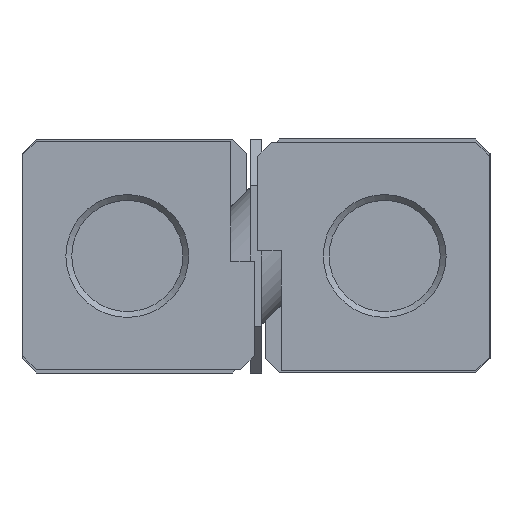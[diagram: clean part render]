
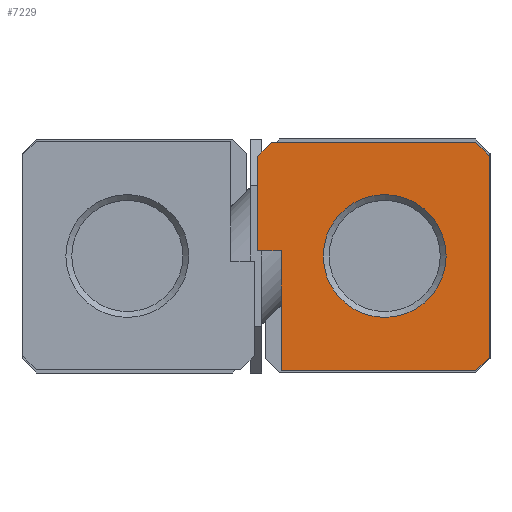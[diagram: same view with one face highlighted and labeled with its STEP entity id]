
A CAD part, left-side view. The second image highlights one B-rep face of the part: STEP entity #7229.
In plain terms, the highlighted planar face has unit normal (-1, 0, 0).
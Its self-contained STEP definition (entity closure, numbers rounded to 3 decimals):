
#282=CIRCLE('',#7677,5.25);
#567=ORIENTED_EDGE('',*,*,#2512,.F.);
#568=ORIENTED_EDGE('',*,*,#2494,.F.);
#569=ORIENTED_EDGE('',*,*,#2511,.F.);
#570=ORIENTED_EDGE('',*,*,#2509,.F.);
#571=ORIENTED_EDGE('',*,*,#2507,.F.);
#572=ORIENTED_EDGE('',*,*,#2505,.F.);
#573=ORIENTED_EDGE('',*,*,#2503,.F.);
#574=ORIENTED_EDGE('',*,*,#2501,.F.);
#575=ORIENTED_EDGE('',*,*,#2499,.F.);
#576=ORIENTED_EDGE('',*,*,#2497,.F.);
#2494=EDGE_CURVE('',#3479,#3480,#4199,.T.);
#2497=EDGE_CURVE('',#3480,#3481,#4202,.T.);
#2499=EDGE_CURVE('',#3481,#3482,#4204,.T.);
#2501=EDGE_CURVE('',#3482,#3483,#4206,.T.);
#2503=EDGE_CURVE('',#3483,#3484,#4208,.T.);
#2505=EDGE_CURVE('',#3484,#3485,#4210,.T.);
#2507=EDGE_CURVE('',#3485,#3486,#4212,.T.);
#2509=EDGE_CURVE('',#3486,#3487,#4214,.T.);
#2511=EDGE_CURVE('',#3487,#3479,#4216,.T.);
#2512=EDGE_CURVE('',#3488,#3488,#282,.T.);
#3479=VERTEX_POINT('',#10573);
#3480=VERTEX_POINT('',#10574);
#3481=VERTEX_POINT('',#10579);
#3482=VERTEX_POINT('',#10583);
#3483=VERTEX_POINT('',#10587);
#3484=VERTEX_POINT('',#10591);
#3485=VERTEX_POINT('',#10595);
#3486=VERTEX_POINT('',#10599);
#3487=VERTEX_POINT('',#10603);
#3488=VERTEX_POINT('',#10609);
#4199=LINE('',#10572,#4918);
#4202=LINE('',#10578,#4921);
#4204=LINE('',#10582,#4923);
#4206=LINE('',#10586,#4925);
#4208=LINE('',#10590,#4927);
#4210=LINE('',#10594,#4929);
#4212=LINE('',#10598,#4931);
#4214=LINE('',#10602,#4933);
#4216=LINE('',#10606,#4935);
#4918=VECTOR('',#8443,1000.);
#4921=VECTOR('',#8448,1000.);
#4923=VECTOR('',#8452,1000.);
#4925=VECTOR('',#8456,1000.);
#4927=VECTOR('',#8460,1000.);
#4929=VECTOR('',#8464,1000.);
#4931=VECTOR('',#8468,1000.);
#4933=VECTOR('',#8472,1000.);
#4935=VECTOR('',#8476,1000.);
#5618=EDGE_LOOP('',(#567));
#5619=EDGE_LOOP('',(#568,#569,#570,#571,#572,#573,#574,#575,#576));
#6283=FACE_BOUND('',#5618,.T.);
#6284=FACE_BOUND('',#5619,.T.);
#6936=PLANE('',#7676);
#7229=ADVANCED_FACE('',(#6283,#6284),#6936,.F.);
#7676=AXIS2_PLACEMENT_3D('',#10607,#8477,#8478);
#7677=AXIS2_PLACEMENT_3D('',#10608,#8479,#8480);
#8443=DIRECTION('',(0.,-1.,0.));
#8448=DIRECTION('',(0.,-0.707,-0.707));
#8452=DIRECTION('',(0.,0.,-1.));
#8456=DIRECTION('',(0.,0.707,-0.707));
#8460=DIRECTION('',(0.,1.,0.));
#8464=DIRECTION('',(0.,0.,1.));
#8468=DIRECTION('',(0.,1.,0.));
#8472=DIRECTION('',(0.,0.,1.));
#8476=DIRECTION('',(0.,-0.707,0.707));
#8477=DIRECTION('',(1.,0.,0.));
#8478=DIRECTION('',(0.,1.,0.));
#8479=DIRECTION('',(-1.,0.,0.));
#8480=DIRECTION('',(0.,0.,1.));
#10572=CARTESIAN_POINT('',(0.,-1.32,9.7));
#10573=CARTESIAN_POINT('',(0.,-1.32,9.7));
#10574=CARTESIAN_POINT('',(0.,-18.78,9.7));
#10578=CARTESIAN_POINT('',(0.,-18.78,9.7));
#10579=CARTESIAN_POINT('',(0.,-19.95,8.53));
#10582=CARTESIAN_POINT('',(0.,-19.95,8.53));
#10583=CARTESIAN_POINT('',(0.,-19.95,-8.63));
#10586=CARTESIAN_POINT('',(0.,-19.95,-8.63));
#10587=CARTESIAN_POINT('',(0.,-18.78,-9.8));
#10590=CARTESIAN_POINT('',(0.,-18.78,-9.8));
#10591=CARTESIAN_POINT('',(0.,-2.15,-9.8));
#10594=CARTESIAN_POINT('',(0.,-2.15,-9.8));
#10595=CARTESIAN_POINT('',(0.,-2.15,0.45));
#10598=CARTESIAN_POINT('',(0.,-2.15,0.45));
#10599=CARTESIAN_POINT('',(0.,-0.15,0.45));
#10602=CARTESIAN_POINT('',(0.,-0.15,0.45));
#10603=CARTESIAN_POINT('',(0.,-0.15,8.53));
#10606=CARTESIAN_POINT('',(0.,-0.15,8.53));
#10607=CARTESIAN_POINT('',(0.,0.,0.));
#10608=CARTESIAN_POINT('',(0.,-11.,0.));
#10609=CARTESIAN_POINT('',(0.,-11.,5.25));
